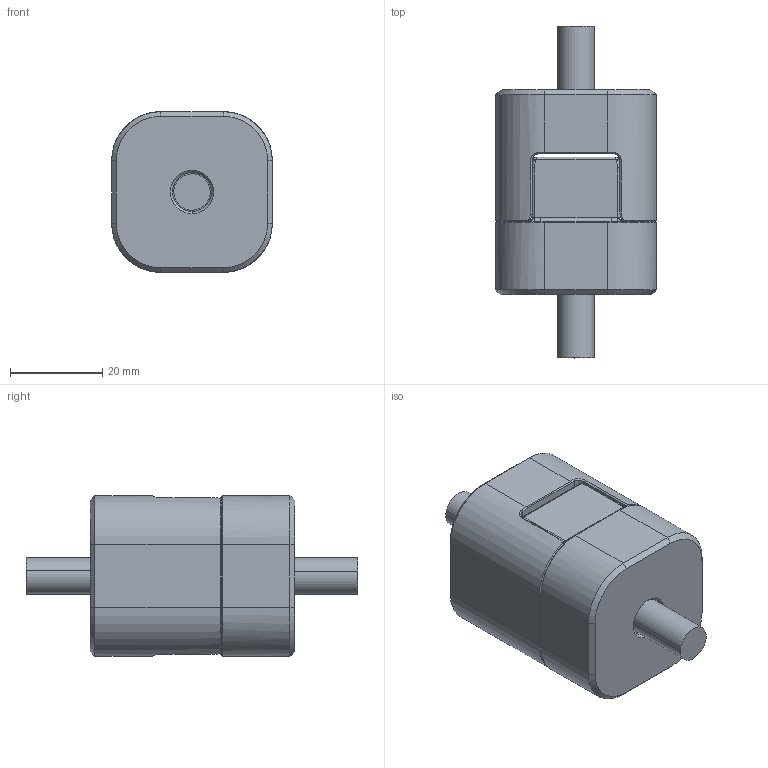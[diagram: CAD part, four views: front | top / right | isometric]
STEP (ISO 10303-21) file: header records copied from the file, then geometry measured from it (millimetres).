
FILE_DESCRIPTION (( 'STEP AP203' ), '1' );
FILE_NAME ('TL137X137.step', '2023-02-19T09:36:25', ( '' ), ( '' ), 'SwSTEP 2.0', 'SolidWorks 2020', '' );
FILE_SCHEMA (( 'CONFIG_CONTROL_DESIGN' ));
Length unit declared in the file: inch
Products named in the file (7): SHCS31-18L1.37_SHCS31-18L.75; TL137X137-F; TL137X137-M; SHCS31-18L.75_SHCS31-18L.75; TL137X137 MALE HALF; TL137X137; TL137X137 FEMALE HALF
Assembly tree (6 placements, depth 3):
  TL137X137
    TL137X137 MALE HALF
      TL137X137-M
      SHCS31-18L1.37_SHCS31-18L.75
    TL137X137 FEMALE HALF
      TL137X137-F
      SHCS31-18L.75_SHCS31-18L.75
Bounding box: 34.92 x 72.15 x 34.92 mm (x, y, z)
Volume: 49189.1 mm3; surface area: 15323.7 mm2
Topology: 4 solids, 4 shells, 460 faces, 966 edges, 612 vertices
Faces by surface type: cylinder 228, plane 156, bspline 36, cone 28, torus 12
Entity records: 14929 total; most frequent: CARTESIAN_POINT 4149, DIRECTION 2232, ORIENTED_EDGE 1932, EDGE_CURVE 966, AXIS2_PLACEMENT_3D 935, VERTEX_POINT 612, EDGE_LOOP 562, CIRCLE 500
